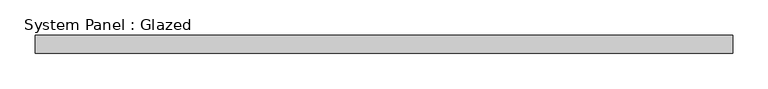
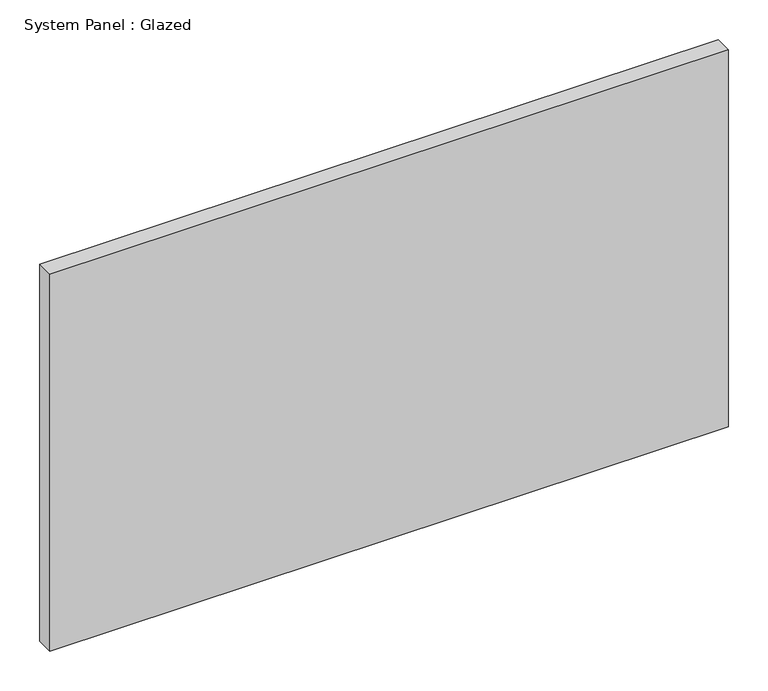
"""IFC4 building model written with IfcOpenShell, lengths in millimetres: plate geometry, System Panel : Glazed."""

from ifc_helpers import new_model, si_unit, origin, origin_with_axes, place, context, project, spatial, polyline, outline, extrude, source, transform, mapped, element, save


def system_panel_glazed_5698b928(model_context):
    return source(origin(), model_context, "Body", "SweptSolid", [
        extrude(outline(polyline([(492.125, 19.05), (-492.125, 19.05), (-492.125, 44.45), (492.125, 44.45), (492.125, 19.05)])), origin_with_axes(), (0.0, 0.0, 1.0), 577.85),
    ])


if __name__ == "__main__":
    model = new_model("IFC4")
    model_context = context("Model", 3, world=origin())
    ifc_project = project(units=[si_unit("LENGTHUNIT", "METRE", prefix="MILLI")], contexts=[model_context])
    site = spatial("IfcSite", under=ifc_project)
    building = spatial("IfcBuilding", under=site)
    placement = place(None, origin())
    system_panel_glazed_shape = system_panel_glazed_5698b928(model_context)
    element("IfcPlate", 1, ObjectType="System Panel : Glazed", at=placement, inside=building, context=model_context, shape_type="MappedRepresentation", body=[
        mapped(system_panel_glazed_shape, transform((0.0, 0.0, 0.0), x_axis=(1.0, 0.0, 0.0), y_axis=(0.0, 1.0, 0.0), z_axis=(0.0, 0.0, 1.0))),
    ])
    save(model, "model.ifc")
